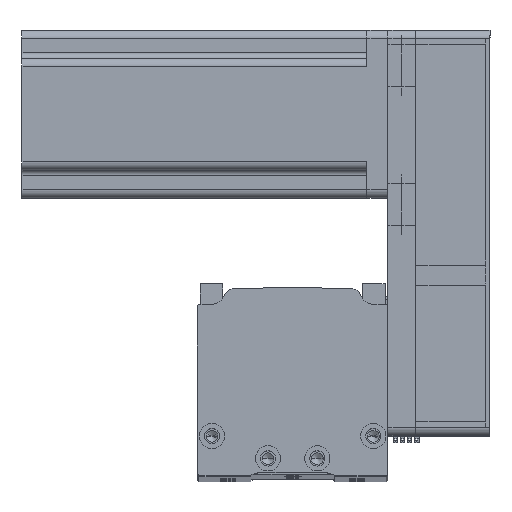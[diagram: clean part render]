
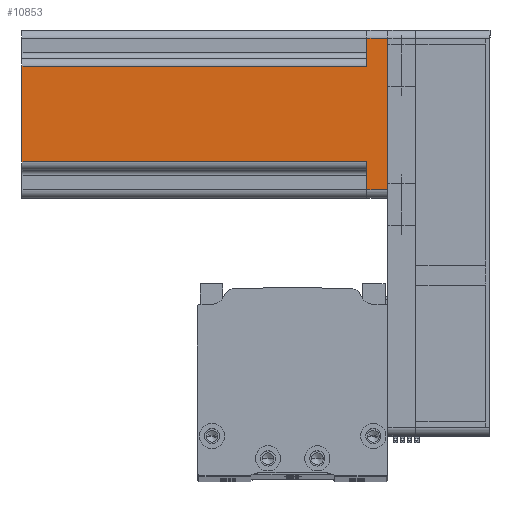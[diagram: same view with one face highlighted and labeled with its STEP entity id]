
A CAD part, top view. The second image highlights one B-rep face of the part: STEP entity #10853.
In plain terms, the highlighted planar face has unit normal (0, 0, 1) as drawn and (0, -1, 0) by its records, which use the part's own axes.
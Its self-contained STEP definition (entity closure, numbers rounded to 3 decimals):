
#1601 = VECTOR ( 'NONE', #9311, 1000. ) ;
#2242 = CARTESIAN_POINT ( 'NONE',  ( -27., -30., 0. ) ) ;
#2844 = DIRECTION ( 'NONE',  ( 1., 0., 0. ) ) ;
#2908 = LINE ( 'NONE', #42508, #1601 ) ;
#3285 = DIRECTION ( 'NONE',  ( 0., 0., 1. ) ) ;
#4406 = CARTESIAN_POINT ( 'NONE',  ( 17., -30., 130.7 ) ) ;
#4654 = ORIENTED_EDGE ( 'NONE', *, *, #39117, .T. ) ;
#5259 = LINE ( 'NONE', #40918, #37149 ) ;
#5671 = CARTESIAN_POINT ( 'NONE',  ( -17., -30., 130.7 ) ) ;
#6011 = CARTESIAN_POINT ( 'NONE',  ( -17., -30., 130.7 ) ) ;
#8126 = LINE ( 'NONE', #23663, #17904 ) ;
#9311 = DIRECTION ( 'NONE',  ( 0., 0., -1. ) ) ;
#9500 = LINE ( 'NONE', #45244, #31620 ) ;
#10304 = DIRECTION ( 'NONE',  ( 0., 1., 0. ) ) ;
#10853 = ADVANCED_FACE ( 'NONE', ( #30470 ), #39066, .F. ) ;
#11822 = LINE ( 'NONE', #19843, #42286 ) ;
#12527 = DIRECTION ( 'NONE',  ( -1., 0., 0. ) ) ;
#12994 = ORIENTED_EDGE ( 'NONE', *, *, #52916, .F. ) ;
#13679 = VERTEX_POINT ( 'NONE', #6011 ) ;
#15472 = CARTESIAN_POINT ( 'NONE',  ( -20., -30., 7.5 ) ) ;
#16330 = CARTESIAN_POINT ( 'NONE',  ( 30., -30., 130.7 ) ) ;
#16963 = EDGE_CURVE ( 'NONE', #13679, #25508, #44104, .T. ) ;
#17904 = VECTOR ( 'NONE', #40225, 1000. ) ;
#19352 = ORIENTED_EDGE ( 'NONE', *, *, #16963, .T. ) ;
#19459 = ORIENTED_EDGE ( 'NONE', *, *, #24204, .T. ) ;
#19843 = CARTESIAN_POINT ( 'NONE',  ( 27., -30., 130.7 ) ) ;
#22762 = ORIENTED_EDGE ( 'NONE', *, *, #49678, .F. ) ;
#23663 = CARTESIAN_POINT ( 'NONE',  ( 30., -30., 0. ) ) ;
#24148 = EDGE_CURVE ( 'NONE', #41014, #45706, #11822, .T. ) ;
#24204 = EDGE_CURVE ( 'NONE', #41353, #30327, #5259, .T. ) ;
#24857 = LINE ( 'NONE', #16330, #34657 ) ;
#25276 = AXIS2_PLACEMENT_3D ( 'NONE', #35203, #10304, #39406 ) ;
#25508 = VERTEX_POINT ( 'NONE', #48399 ) ;
#26139 = CARTESIAN_POINT ( 'NONE',  ( 27., -30., 7.5 ) ) ;
#26608 = LINE ( 'NONE', #15472, #47255 ) ;
#28852 = CARTESIAN_POINT ( 'NONE',  ( -27., -30., 7.5 ) ) ;
#30327 = VERTEX_POINT ( 'NONE', #4406 ) ;
#30470 = FACE_OUTER_BOUND ( 'NONE', #50271, .T. ) ;
#30718 = DIRECTION ( 'NONE',  ( 0., 0., -1. ) ) ;
#31620 = VECTOR ( 'NONE', #12527, 1000. ) ;
#34657 = VECTOR ( 'NONE', #41125, 1000. ) ;
#35203 = CARTESIAN_POINT ( 'NONE',  ( 30., -30., 130.7 ) ) ;
#35606 = EDGE_CURVE ( 'NONE', #45706, #41353, #9500, .T. ) ;
#35723 = VECTOR ( 'NONE', #30718, 1000. ) ;
#36788 = DIRECTION ( 'NONE',  ( 0., 0., 1. ) ) ;
#37149 = VECTOR ( 'NONE', #36788, 1000. ) ;
#37892 = ORIENTED_EDGE ( 'NONE', *, *, #35606, .T. ) ;
#39066 = PLANE ( 'NONE',  #25276 ) ;
#39117 = EDGE_CURVE ( 'NONE', #42309, #47834, #2908, .T. ) ;
#39406 = DIRECTION ( 'NONE',  ( -1., 0., 0. ) ) ;
#40146 = CARTESIAN_POINT ( 'NONE',  ( 27., -30., 0. ) ) ;
#40225 = DIRECTION ( 'NONE',  ( 1., 0., 0. ) ) ;
#40918 = CARTESIAN_POINT ( 'NONE',  ( 17., -30., 130.7 ) ) ;
#41014 = VERTEX_POINT ( 'NONE', #40146 ) ;
#41125 = DIRECTION ( 'NONE',  ( 1., 0., 0. ) ) ;
#41353 = VERTEX_POINT ( 'NONE', #42022 ) ;
#42022 = CARTESIAN_POINT ( 'NONE',  ( 17., -30., 7.5 ) ) ;
#42286 = VECTOR ( 'NONE', #3285, 1000. ) ;
#42309 = VERTEX_POINT ( 'NONE', #28852 ) ;
#42508 = CARTESIAN_POINT ( 'NONE',  ( -27., -30., 130.7 ) ) ;
#44104 = LINE ( 'NONE', #5671, #35723 ) ;
#44360 = ORIENTED_EDGE ( 'NONE', *, *, #48411, .T. ) ;
#45244 = CARTESIAN_POINT ( 'NONE',  ( 20., -30., 7.5 ) ) ;
#45706 = VERTEX_POINT ( 'NONE', #26139 ) ;
#47255 = VECTOR ( 'NONE', #2844, 1000. ) ;
#47834 = VERTEX_POINT ( 'NONE', #2242 ) ;
#48399 = CARTESIAN_POINT ( 'NONE',  ( -17., -30., 7.5 ) ) ;
#48411 = EDGE_CURVE ( 'NONE', #47834, #41014, #8126, .T. ) ;
#49678 = EDGE_CURVE ( 'NONE', #13679, #30327, #24857, .T. ) ;
#50271 = EDGE_LOOP ( 'NONE', ( #22762, #19352, #12994, #4654, #44360, #50833, #37892, #19459 ) ) ;
#50833 = ORIENTED_EDGE ( 'NONE', *, *, #24148, .T. ) ;
#52916 = EDGE_CURVE ( 'NONE', #42309, #25508, #26608, .T. ) ;
